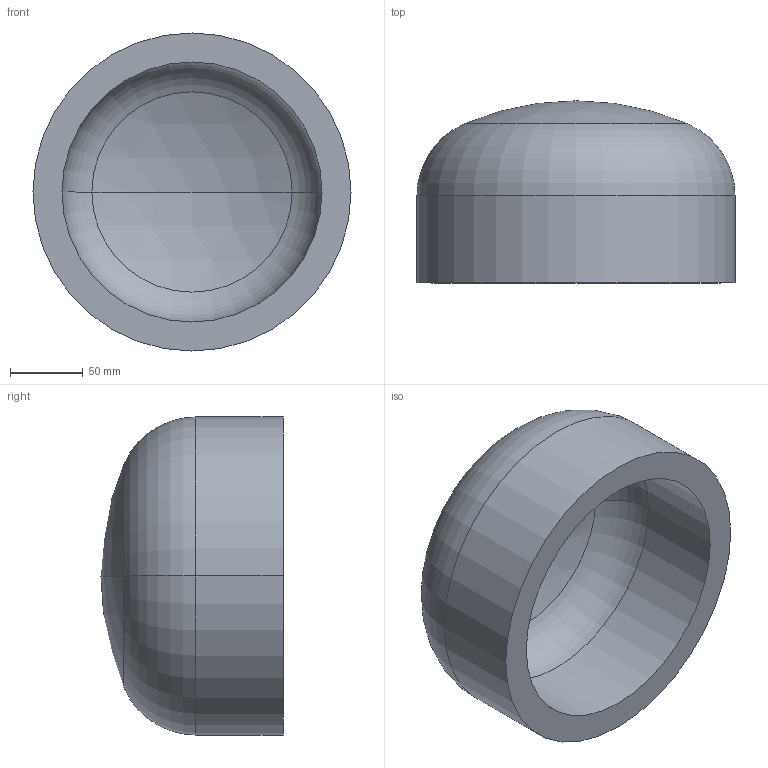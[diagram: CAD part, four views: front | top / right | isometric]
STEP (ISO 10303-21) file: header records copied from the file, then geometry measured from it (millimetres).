
FILE_DESCRIPTION (( 'STEP AP203' ), '1' );
FILE_NAME ('DIN 28013 Korbbogenform_-_Boden DIN 28013 - 219,1 x 60 - I - s=20.step', '2016-07-01T07:42:40', ( '' ), ( '' ), 'SwSTEP 2.0', 'SolidWorks 2013', '' );
FILE_SCHEMA (( 'CONFIG_CONTROL_DESIGN' ));
Length unit declared in the file: millimetre
Products named in the file (1): DIN 28013 Korbbogenform_-_Boden DIN 28013 - 219,1 x 60 - I - s=20
Bounding box: 219.1 x 125.4 x 219.1 mm (x, y, z)
Volume: 1684314.2 mm3; surface area: 181779 mm2
Topology: 1 solids, 1 shells, 13 faces, 24 edges, 14 vertices
Faces by surface type: torus 4, cylinder 4, sphere 4, plane 1
Entity records: 407 total; most frequent: DIRECTION 72, CARTESIAN_POINT 52, ORIENTED_EDGE 48, AXIS2_PLACEMENT_3D 34, EDGE_CURVE 24, CIRCLE 20, EDGE_LOOP 14, VERTEX_POINT 14
